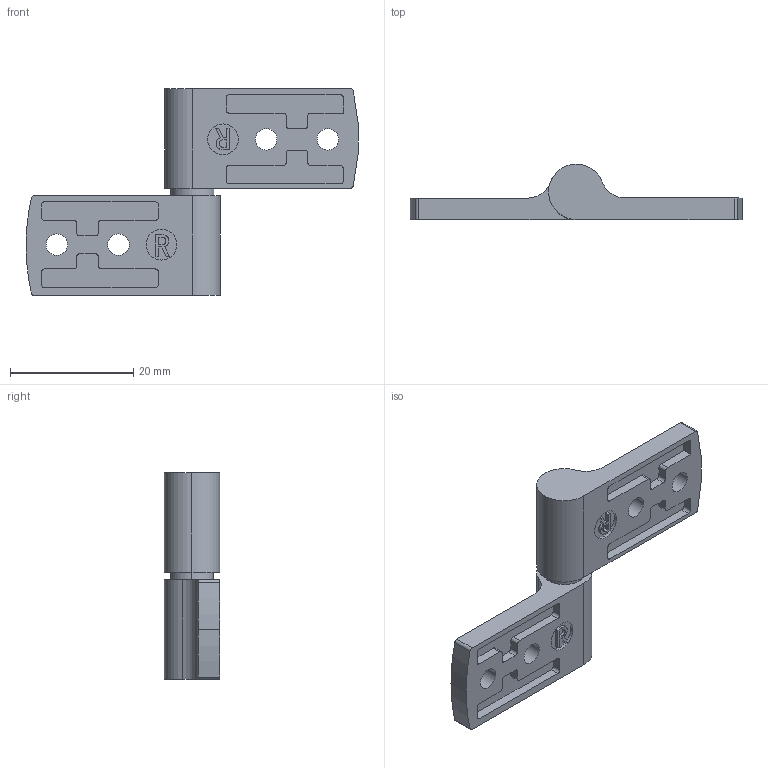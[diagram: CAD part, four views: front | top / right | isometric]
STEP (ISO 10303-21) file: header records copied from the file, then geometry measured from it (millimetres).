
FILE_DESCRIPTION (( 'STEP AP203' ), '1' );
FILE_NAME ('XG11-072R.STEP', '2025-08-01T07:41:29', ( '微软用户' ), ( '微软中国' ), 'SwSTEP 2.0', 'SolidWorks 2024', '' );
FILE_SCHEMA (( 'CONFIG_CONTROL_DESIGN' ));
Length unit declared in the file: millimetre
Products named in the file (1): XG11-072R
Bounding box: 53.9 x 9 x 33.6 mm (x, y, z)
Volume: 4286.3 mm3; surface area: 3301.4 mm2
Topology: 1 solids, 1 shells, 138 faces, 372 edges, 248 vertices
Faces by surface type: plane 72, cylinder 58, bspline 8
Entity records: 4909 total; most frequent: CARTESIAN_POINT 1279, ORIENTED_EDGE 744, DIRECTION 734, EDGE_CURVE 372, VERTEX_POINT 248, AXIS2_PLACEMENT_3D 247, LINE 240, VECTOR 240
